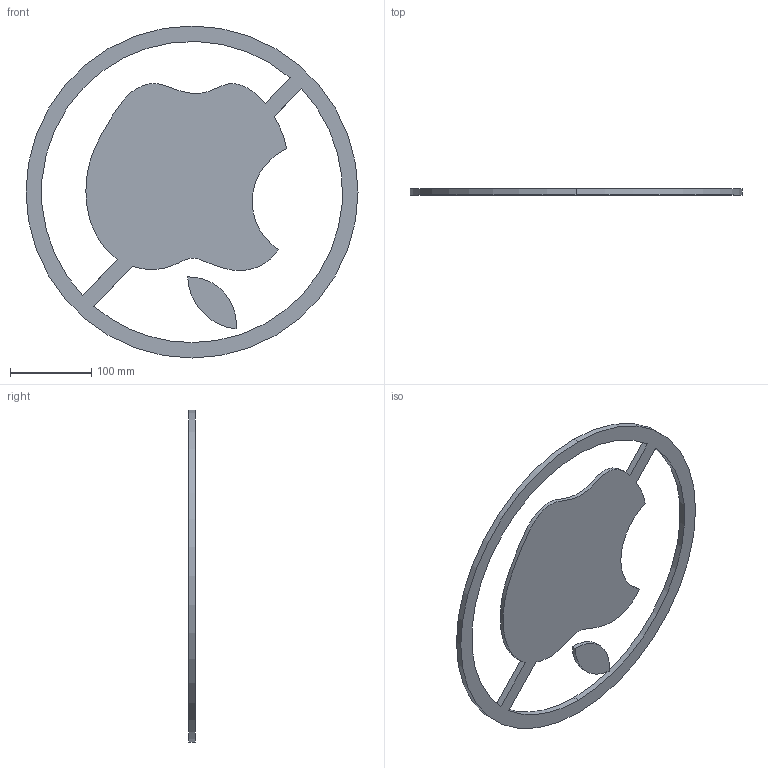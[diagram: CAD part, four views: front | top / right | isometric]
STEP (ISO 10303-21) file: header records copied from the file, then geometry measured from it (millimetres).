
FILE_DESCRIPTION (( 'STEP AP203' ), '1' );
FILE_NAME ('anti-mac.STEP', '2013-01-30T17:51:30', ( '' ), ( '' ), 'SwSTEP 2.0', 'SolidWorks 2013', '' );
FILE_SCHEMA (( 'CONFIG_CONTROL_DESIGN' ));
Length unit declared in the file: inch
Products named in the file (1): anti-mac
Bounding box: 409.85 x 7.62 x 409.85 mm (x, y, z)
Volume: 449815.5 mm3; surface area: 171917.7 mm2
Topology: 2 solids, 2 shells, 19 faces, 45 edges, 30 vertices
Faces by surface type: cylinder 8, plane 8, bspline 3
Entity records: 750 total; most frequent: CARTESIAN_POINT 226, ORIENTED_EDGE 90, DIRECTION 89, EDGE_CURVE 45, AXIS2_PLACEMENT_3D 33, VERTEX_POINT 30, EDGE_LOOP 23, VECTOR 23
